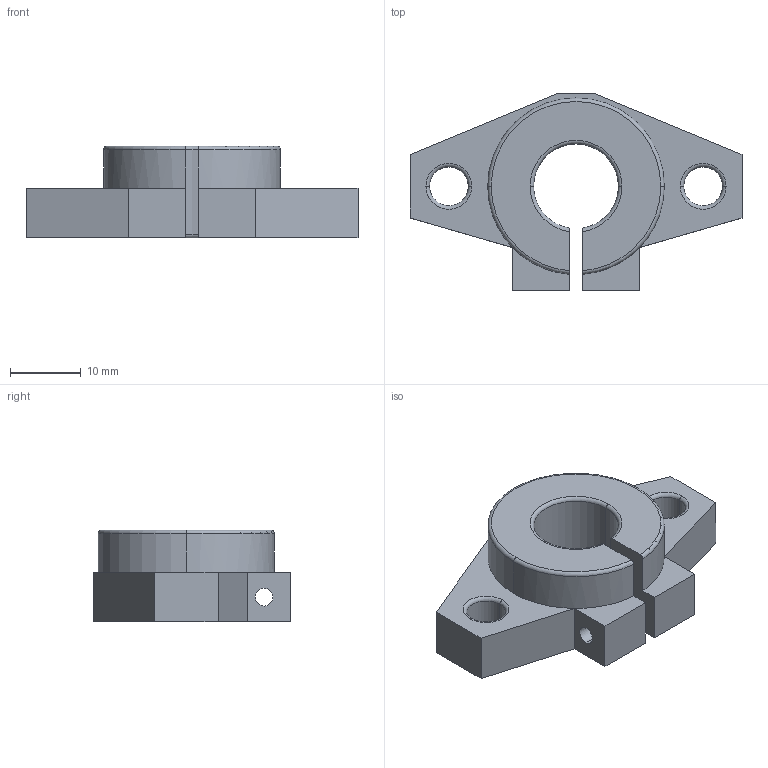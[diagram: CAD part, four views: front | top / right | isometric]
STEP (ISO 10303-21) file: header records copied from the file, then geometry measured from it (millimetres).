
FILE_DESCRIPTION (( 'STEP AP203' ), '1' );
FILE_NAME ('shf12mm.STEP', '2019-04-13T01:29:01', ( '' ), ( '' ), 'SwSTEP 2.0', 'SolidWorks 2018', '' );
FILE_SCHEMA (( 'CONFIG_CONTROL_DESIGN' ));
Length unit declared in the file: millimetre
Products named in the file (1): shf12mm
Bounding box: 47 x 28 x 13 mm (x, y, z)
Volume: 7135.3 mm3; surface area: 3759.5 mm2
Topology: 1 solids, 1 shells, 49 faces, 123 edges, 76 vertices
Faces by surface type: plane 18, torus 17, cylinder 14
Entity records: 1585 total; most frequent: CARTESIAN_POINT 279, DIRECTION 278, ORIENTED_EDGE 246, EDGE_CURVE 123, AXIS2_PLACEMENT_3D 111, VERTEX_POINT 76, CIRCLE 61, EDGE_LOOP 57
